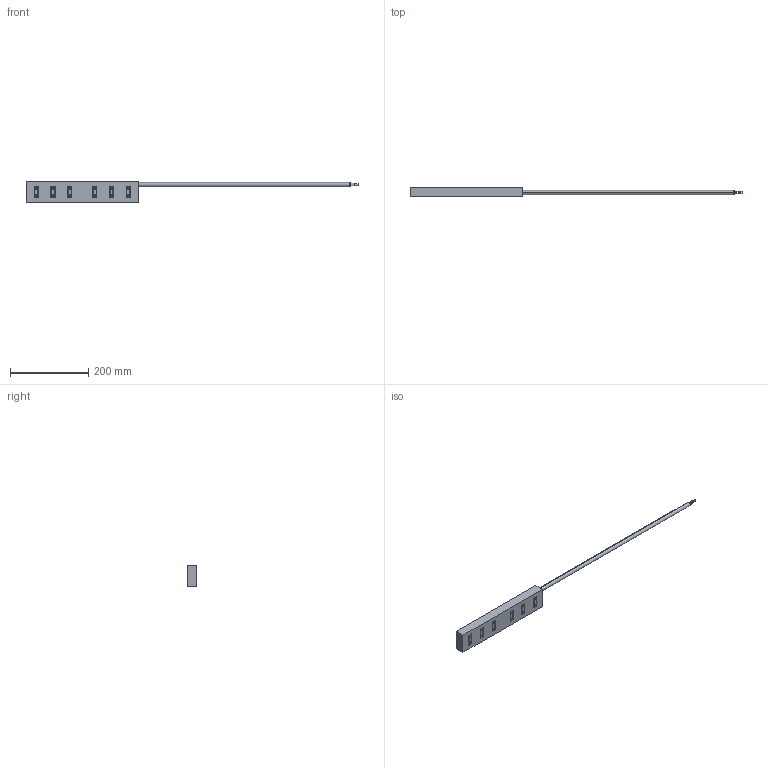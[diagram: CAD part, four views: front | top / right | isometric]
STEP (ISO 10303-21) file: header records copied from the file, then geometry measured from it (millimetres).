
FILE_DESCRIPTION (( 'STEP AP214' ), '1' );
FILE_NAME ('COILUNIT TD55-12N.STEP', '2025-03-07T09:31:33', ( '' ), ( '' ), 'SwSTEP 2.0', 'SolidWorks 2023', '' );
FILE_SCHEMA (( 'AUTOMOTIVE_DESIGN' ));
Length unit declared in the file: millimetre
Products named in the file (1): COILUNIT TD55-12N
Bounding box: 847.99 x 23.6 x 54.97 mm (x, y, z)
Volume: 416451.1 mm3; surface area: 66710.5 mm2
Topology: 1 solids, 1 shells, 222 faces, 516 edges, 344 vertices
Faces by surface type: cylinder 120, plane 102
Entity records: 8885 total; most frequent: DIRECTION 1202, CARTESIAN_POINT 1083, ORIENTED_EDGE 1032, EDGE_CURVE 516, AXIS2_PLACEMENT_3D 463, VERTEX_POINT 344, VECTOR 276, LINE 276
